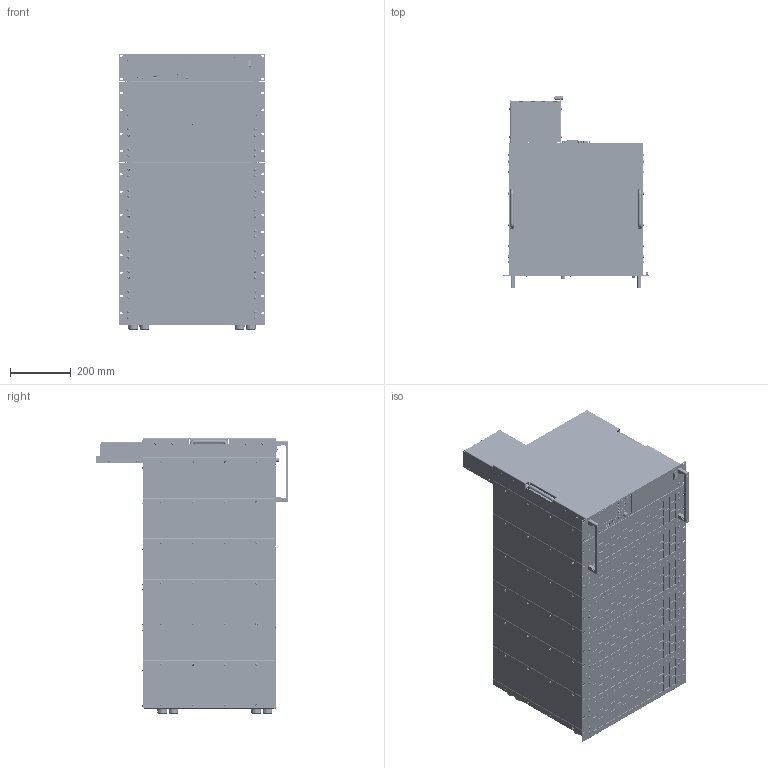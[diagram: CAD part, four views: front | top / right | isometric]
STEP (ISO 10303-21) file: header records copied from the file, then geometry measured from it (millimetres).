
FILE_DESCRIPTION(('STEP AP214'),'1');
FILE_NAME('PLI_M39_19Z_20HE_FKS25_10_SM10_BRB_3D_01.step','2019-03-12T09:03:39',(' '),(' '),'Spatial InterOp 3D',' ',' ');
FILE_SCHEMA(('AUTOMOTIVE_DESIGN { 1 0 10303 214 1 1 1 1 }'));
Length unit declared in the file: millimetre
Products named in the file (1): 1
Bounding box: 482.6 x 631.75 x 906.13 mm (x, y, z)
Volume: 57884492.4 mm3; surface area: 9603938 mm2
Topology: 410 solids, 2762 shells, 28523 faces, 81091 edges, 55593 vertices
Faces by surface type: plane 15502, cone 7566, cylinder 4651, sphere 444, torus 332, bspline 26, extrusion 2
Entity records: 1187334 total; most frequent: CARTESIAN_POINT 173422, DIRECTION 170412, ORIENTED_EDGE 145696, EDGE_CURVE 80148, AXIS2_PLACEMENT_3D 58752, VERTEX_POINT 54442, VECTOR 52908, LINE 52906
